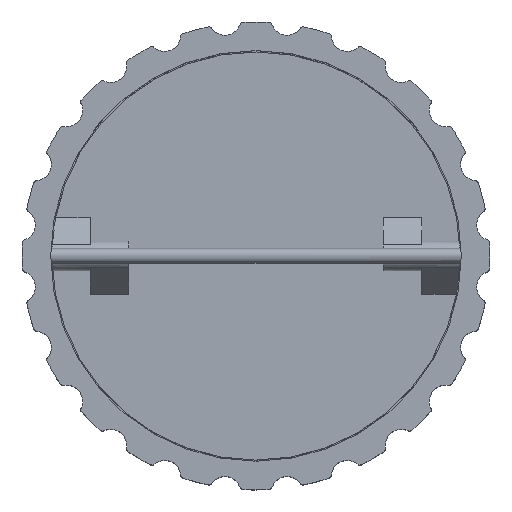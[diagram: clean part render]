
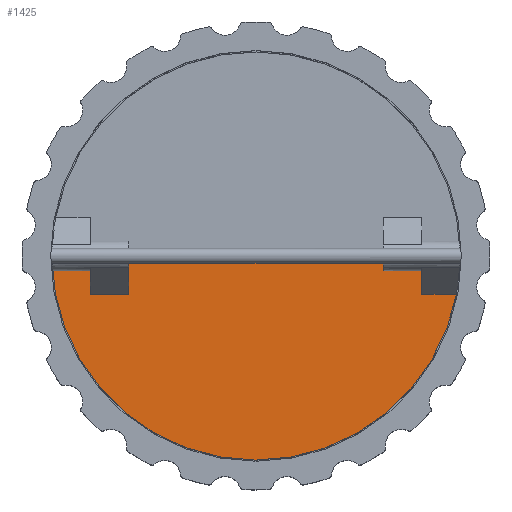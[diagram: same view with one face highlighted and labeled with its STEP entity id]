
A CAD part, top view. The second image highlights one B-rep face of the part: STEP entity #1425.
In plain terms, the highlighted planar face has unit normal (0, 0, 1).
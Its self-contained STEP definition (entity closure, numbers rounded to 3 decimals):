
#1425=ADVANCED_FACE('',(#3525),#3527,.T.);
#3525=FACE_BOUND('',#3526,.T.);
#3526=EDGE_LOOP('',(#5372,#5373,#5374,#5375,#5376,#5377,#5378,#5379));
#3527=PLANE('',#3528);
#3528=AXIS2_PLACEMENT_3D('',#3529,#3530,#3531);
#3529=CARTESIAN_POINT('',(0.,0.,99.));
#3530=DIRECTION('',(0.,0.,1.));
#3531=DIRECTION('',(0.,1.,0.));
#5372=ORIENTED_EDGE('',*,*,#6586,.F.);
#5373=ORIENTED_EDGE('',*,*,#6587,.F.);
#5374=ORIENTED_EDGE('',*,*,#6548,.T.);
#5375=ORIENTED_EDGE('',*,*,#6558,.T.);
#5376=ORIENTED_EDGE('',*,*,#6588,.F.);
#5377=ORIENTED_EDGE('',*,*,#6589,.F.);
#5378=ORIENTED_EDGE('',*,*,#6552,.T.);
#5379=ORIENTED_EDGE('',*,*,#6590,.F.);
#6548=EDGE_CURVE('',#7790,#7788,#7791,.T.);
#6552=EDGE_CURVE('',#7798,#7796,#7799,.T.);
#6558=EDGE_CURVE('',#7788,#7807,#7809,.T.);
#6586=EDGE_CURVE('',#7854,#7855,#7856,.T.);
#6587=EDGE_CURVE('',#7790,#7854,#7857,.T.);
#6588=EDGE_CURVE('',#7858,#7807,#7859,.T.);
#6589=EDGE_CURVE('',#7798,#7858,#7860,.T.);
#6590=EDGE_CURVE('',#7855,#7796,#7861,.F.);
#7788=VERTEX_POINT('',#12055);
#7790=VERTEX_POINT('',#12059);
#7791=LINE('',#12060,#12061);
#7796=VERTEX_POINT('',#12071);
#7798=VERTEX_POINT('',#12075);
#7799=LINE('',#12076,#12077);
#7807=VERTEX_POINT('',#12139);
#7809=CIRCLE('',#12144,410.);
#7854=VERTEX_POINT('',#12480);
#7855=VERTEX_POINT('',#12481);
#7856=LINE('',#12482,#12483);
#7857=LINE('',#12485,#12486);
#7858=VERTEX_POINT('',#12488);
#7859=LINE('',#12489,#12490);
#7860=LINE('',#12492,#12493);
#7861=LINE('',#12495,#12496);
#12055=CARTESIAN_POINT('',(-409.98,-4.,99.));
#12059=CARTESIAN_POINT('',(-333.02,-4.,99.));
#12060=CARTESIAN_POINT('',(-333.02,-4.,99.));
#12061=VECTOR('',#12062,1.);
#12062=DIRECTION('',(-1.,0.,0.));
#12071=CARTESIAN_POINT('',(-256.02,-4.,99.));
#12075=CARTESIAN_POINT('',(332.98,-4.,99.));
#12076=CARTESIAN_POINT('',(332.98,-4.,99.));
#12077=VECTOR('',#12078,1.);
#12078=DIRECTION('',(-1.,0.,0.));
#12139=CARTESIAN_POINT('',(402.72,-76.922,99.));
#12144=AXIS2_PLACEMENT_3D('',#12145,#12146,#12147);
#12145=CARTESIAN_POINT('',(0.,0.,99.));
#12146=DIRECTION('',(0.,0.,1.));
#12147=DIRECTION('',(-1.,-0.01,0.));
#12480=CARTESIAN_POINT('',(-333.02,-76.922,99.));
#12481=CARTESIAN_POINT('',(-256.02,-76.922,99.));
#12482=CARTESIAN_POINT('',(-333.02,-76.922,99.));
#12483=VECTOR('',#12484,1.);
#12484=DIRECTION('',(1.,0.,0.));
#12485=CARTESIAN_POINT('',(-333.02,-4.,99.));
#12486=VECTOR('',#12487,1.);
#12487=DIRECTION('',(0.,-1.,0.));
#12488=CARTESIAN_POINT('',(332.98,-76.922,99.));
#12489=CARTESIAN_POINT('',(332.98,-76.922,99.));
#12490=VECTOR('',#12491,1.);
#12491=DIRECTION('',(1.,0.,0.));
#12492=CARTESIAN_POINT('',(332.98,-4.,99.));
#12493=VECTOR('',#12494,1.);
#12494=DIRECTION('',(0.,-1.,0.));
#12495=CARTESIAN_POINT('',(-256.02,-4.,99.));
#12496=VECTOR('',#12497,1.);
#12497=DIRECTION('',(0.,-1.,0.));
